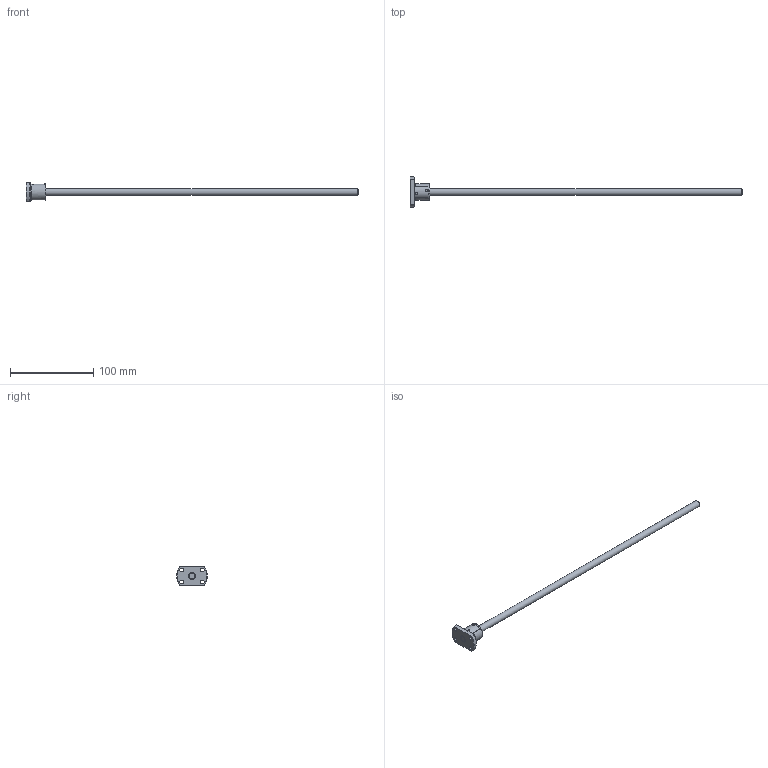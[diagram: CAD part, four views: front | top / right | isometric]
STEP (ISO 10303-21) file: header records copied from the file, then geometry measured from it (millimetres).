
FILE_DESCRIPTION( ( 'STEP AP203' ), '1' );
FILE_NAME( 'e:/temp/worker_108/temp/exporttempdir_4604_324_kj5C9/format_0/SSR0802 (0).stp', '2021-10-19T07:22:43', ( 'License CC BY-ND 4.0' ), ( 'CADENAS' ), ' ', 'PARTsolutions', ' ' );
FILE_SCHEMA( ( 'CONFIG_CONTROL_DESIGN' ) );
Length unit declared in the file: millimetre
Products named in the file (3): SSR0802 (0); _SSR0802 Shaft; _SSR0802 Nut
Assembly tree (2 placements, depth 2):
  SSR0802 (0)
    _SSR0802 Shaft
    _SSR0802 Nut
Bounding box: 400 x 37 x 22 mm (x, y, z)
Volume: 28206.8 mm3; surface area: 14054.5 mm2
Topology: 2 solids, 2 shells, 47 faces, 111 edges, 73 vertices
Faces by surface type: plane 22, cylinder 18, cone 7
Full cylindrical faces by diameter (mm): 2.5 x1, 4.5 x4, 8 x2, 19.5 x1, 20 x1
Entity records: 1480 total; most frequent: CARTESIAN_POINT 311, DIRECTION 230, ORIENTED_EDGE 192, EDGE_CURVE 96, AXIS2_PLACEMENT_3D 95, EDGE_LOOP 74, VERTEX_POINT 70, FACE_OUTER_BOUND 56
